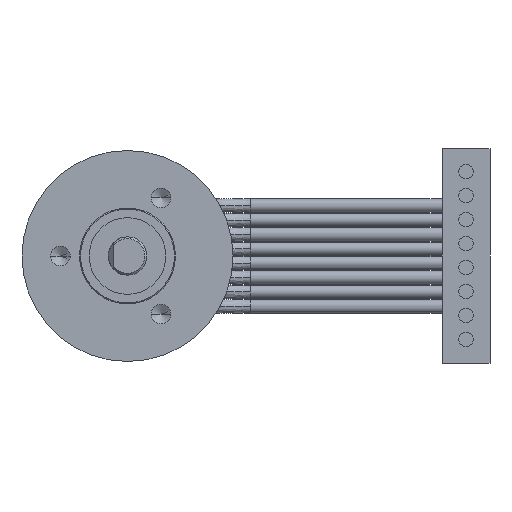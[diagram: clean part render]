
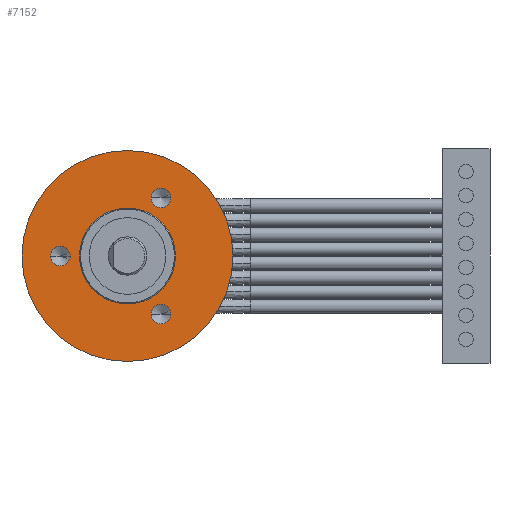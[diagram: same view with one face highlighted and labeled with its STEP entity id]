
A CAD part, left-side view. The second image highlights one B-rep face of the part: STEP entity #7152.
In plain terms, the highlighted planar face has unit normal (-1, 0, 0).
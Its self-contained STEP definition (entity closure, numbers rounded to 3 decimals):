
#15 = DIRECTION ( 'NONE',  ( 0., 0., 1. ) ) ;
#27 = DIRECTION ( 'NONE',  ( 1., 0., 0. ) ) ;
#37 = CARTESIAN_POINT ( 'NONE',  ( 14.85, 0., 0. ) ) ;
#58 = AXIS2_PLACEMENT_3D ( 'NONE', #7014, #3492, #7556 ) ;
#71 = CIRCLE ( 'NONE', #1728, 1.025 ) ;
#265 = EDGE_CURVE ( 'NONE', #381, #4043, #4155, .T. ) ;
#308 = DIRECTION ( 'NONE',  ( 0., -1., 0. ) ) ;
#331 = DIRECTION ( 'NONE',  ( -1., 0., 0. ) ) ;
#360 = CARTESIAN_POINT ( 'NONE',  ( 14.85, -3.5, 6.062 ) ) ;
#369 = EDGE_CURVE ( 'NONE', #4043, #381, #6218, .T. ) ;
#381 = VERTEX_POINT ( 'NONE', #7047 ) ;
#488 = FACE_BOUND ( 'NONE', #4150, .T. ) ;
#936 = VERTEX_POINT ( 'NONE', #3306 ) ;
#1074 = AXIS2_PLACEMENT_3D ( 'NONE', #37, #27, #15 ) ;
#1138 = EDGE_CURVE ( 'NONE', #1204, #7017, #5345, .T. ) ;
#1204 = VERTEX_POINT ( 'NONE', #6417 ) ;
#1244 = CARTESIAN_POINT ( 'NONE',  ( 14.85, -4.525, -6.062 ) ) ;
#1406 = CARTESIAN_POINT ( 'NONE',  ( 14.85, 0., -5. ) ) ;
#1446 = EDGE_LOOP ( 'NONE', ( #4390, #7024 ) ) ;
#1469 = ORIENTED_EDGE ( 'NONE', *, *, #3350, .T. ) ;
#1588 = AXIS2_PLACEMENT_3D ( 'NONE', #6582, #6574, #6537 ) ;
#1601 = DIRECTION ( 'NONE',  ( 0., 0., 1. ) ) ;
#1615 = DIRECTION ( 'NONE',  ( 1., 0., 0. ) ) ;
#1628 = CARTESIAN_POINT ( 'NONE',  ( 14.85, 0., 0. ) ) ;
#1728 = AXIS2_PLACEMENT_3D ( 'NONE', #7421, #7471, #7374 ) ;
#1824 = DIRECTION ( 'NONE',  ( 0., 0., 1. ) ) ;
#1848 = DIRECTION ( 'NONE',  ( 1., 0., 0. ) ) ;
#1876 = CARTESIAN_POINT ( 'NONE',  ( 14.85, 0., 0. ) ) ;
#1986 = VERTEX_POINT ( 'NONE', #1406 ) ;
#2289 = ORIENTED_EDGE ( 'NONE', *, *, #7444, .F. ) ;
#2330 = VERTEX_POINT ( 'NONE', #2790 ) ;
#2358 = DIRECTION ( 'NONE',  ( 1., 0., 0. ) ) ;
#2388 = CARTESIAN_POINT ( 'NONE',  ( 14.85, 0., 0. ) ) ;
#2550 = CARTESIAN_POINT ( 'NONE',  ( 14.85, -11.132, 11.132 ) ) ;
#2662 = CIRCLE ( 'NONE', #6324, 5. ) ;
#2790 = CARTESIAN_POINT ( 'NONE',  ( 14.85, -2.475, -6.062 ) ) ;
#2897 = FACE_BOUND ( 'NONE', #4352, .T. ) ;
#3042 = AXIS2_PLACEMENT_3D ( 'NONE', #360, #331, #308 ) ;
#3180 = DIRECTION ( 'NONE',  ( 1., 0., 0. ) ) ;
#3306 = CARTESIAN_POINT ( 'NONE',  ( 14.85, 5.975, 0. ) ) ;
#3350 = EDGE_CURVE ( 'NONE', #1986, #6547, #2662, .T. ) ;
#3460 = EDGE_CURVE ( 'NONE', #936, #5802, #71, .T. ) ;
#3492 = DIRECTION ( 'NONE',  ( -1., 0., 0. ) ) ;
#3601 = CIRCLE ( 'NONE', #7245, 1.025 ) ;
#3661 = AXIS2_PLACEMENT_3D ( 'NONE', #2550, #3180, #7271 ) ;
#3752 = CIRCLE ( 'NONE', #58, 1.025 ) ;
#3760 = FACE_BOUND ( 'NONE', #6861, .T. ) ;
#3940 = DIRECTION ( 'NONE',  ( 0., 0., 1. ) ) ;
#4043 = VERTEX_POINT ( 'NONE', #7331 ) ;
#4051 = EDGE_CURVE ( 'NONE', #5802, #936, #3601, .T. ) ;
#4097 = AXIS2_PLACEMENT_3D ( 'NONE', #1628, #1615, #1601 ) ;
#4150 = EDGE_LOOP ( 'NONE', ( #7189, #2289 ) ) ;
#4155 = CIRCLE ( 'NONE', #4097, 11. ) ;
#4166 = CIRCLE ( 'NONE', #3042, 1.025 ) ;
#4259 = ORIENTED_EDGE ( 'NONE', *, *, #4051, .F. ) ;
#4352 = EDGE_LOOP ( 'NONE', ( #6831, #6564 ) ) ;
#4371 = CARTESIAN_POINT ( 'NONE',  ( 14.85, -2.475, 6.062 ) ) ;
#4390 = ORIENTED_EDGE ( 'NONE', *, *, #369, .F. ) ;
#4460 = AXIS2_PLACEMENT_3D ( 'NONE', #7565, #7541, #7528 ) ;
#4721 = EDGE_CURVE ( 'NONE', #7675, #2330, #7105, .T. ) ;
#4828 = ORIENTED_EDGE ( 'NONE', *, *, #3460, .F. ) ;
#5180 = FACE_OUTER_BOUND ( 'NONE', #1446, .T. ) ;
#5345 = CIRCLE ( 'NONE', #1588, 1.025 ) ;
#5418 = EDGE_CURVE ( 'NONE', #7017, #1204, #4166, .T. ) ;
#5461 = CIRCLE ( 'NONE', #6290, 5. ) ;
#5742 = CARTESIAN_POINT ( 'NONE',  ( 14.85, 8.025, 0. ) ) ;
#5802 = VERTEX_POINT ( 'NONE', #5742 ) ;
#5962 = EDGE_CURVE ( 'NONE', #6547, #1986, #5461, .T. ) ;
#6067 = CARTESIAN_POINT ( 'NONE',  ( 14.85, 0., 5. ) ) ;
#6169 = PLANE ( 'NONE',  #3661 ) ;
#6218 = CIRCLE ( 'NONE', #1074, 11. ) ;
#6290 = AXIS2_PLACEMENT_3D ( 'NONE', #2388, #2358, #3940 ) ;
#6324 = AXIS2_PLACEMENT_3D ( 'NONE', #1876, #1848, #1824 ) ;
#6376 = ORIENTED_EDGE ( 'NONE', *, *, #5962, .T. ) ;
#6417 = CARTESIAN_POINT ( 'NONE',  ( 14.85, -4.525, 6.062 ) ) ;
#6537 = DIRECTION ( 'NONE',  ( 0., -1., 0. ) ) ;
#6547 = VERTEX_POINT ( 'NONE', #6067 ) ;
#6564 = ORIENTED_EDGE ( 'NONE', *, *, #5418, .F. ) ;
#6574 = DIRECTION ( 'NONE',  ( -1., 0., 0. ) ) ;
#6582 = CARTESIAN_POINT ( 'NONE',  ( 14.85, -3.5, 6.062 ) ) ;
#6589 = EDGE_LOOP ( 'NONE', ( #6376, #1469 ) ) ;
#6706 = FACE_BOUND ( 'NONE', #6589, .T. ) ;
#6830 = DIRECTION ( 'NONE',  ( 0., -1., 0. ) ) ;
#6831 = ORIENTED_EDGE ( 'NONE', *, *, #1138, .F. ) ;
#6861 = EDGE_LOOP ( 'NONE', ( #4828, #4259 ) ) ;
#6916 = DIRECTION ( 'NONE',  ( -1., 0., 0. ) ) ;
#6945 = CARTESIAN_POINT ( 'NONE',  ( 14.85, 7., 0. ) ) ;
#7014 = CARTESIAN_POINT ( 'NONE',  ( 14.85, -3.5, -6.062 ) ) ;
#7017 = VERTEX_POINT ( 'NONE', #4371 ) ;
#7024 = ORIENTED_EDGE ( 'NONE', *, *, #265, .F. ) ;
#7047 = CARTESIAN_POINT ( 'NONE',  ( 14.85, 0., -11. ) ) ;
#7105 = CIRCLE ( 'NONE', #4460, 1.025 ) ;
#7152 = ADVANCED_FACE ( 'NONE', ( #3760, #2897, #488, #6706, #5180 ), #6169, .F. ) ;
#7189 = ORIENTED_EDGE ( 'NONE', *, *, #4721, .F. ) ;
#7245 = AXIS2_PLACEMENT_3D ( 'NONE', #6945, #6916, #6830 ) ;
#7271 = DIRECTION ( 'NONE',  ( 0., 0., -1. ) ) ;
#7331 = CARTESIAN_POINT ( 'NONE',  ( 14.85, 0., 11. ) ) ;
#7374 = DIRECTION ( 'NONE',  ( 0., -1., 0. ) ) ;
#7421 = CARTESIAN_POINT ( 'NONE',  ( 14.85, 7., 0. ) ) ;
#7444 = EDGE_CURVE ( 'NONE', #2330, #7675, #3752, .T. ) ;
#7471 = DIRECTION ( 'NONE',  ( -1., 0., 0. ) ) ;
#7528 = DIRECTION ( 'NONE',  ( 0., -1., 0. ) ) ;
#7541 = DIRECTION ( 'NONE',  ( -1., 0., 0. ) ) ;
#7556 = DIRECTION ( 'NONE',  ( 0., -1., 0. ) ) ;
#7565 = CARTESIAN_POINT ( 'NONE',  ( 14.85, -3.5, -6.062 ) ) ;
#7675 = VERTEX_POINT ( 'NONE', #1244 ) ;
